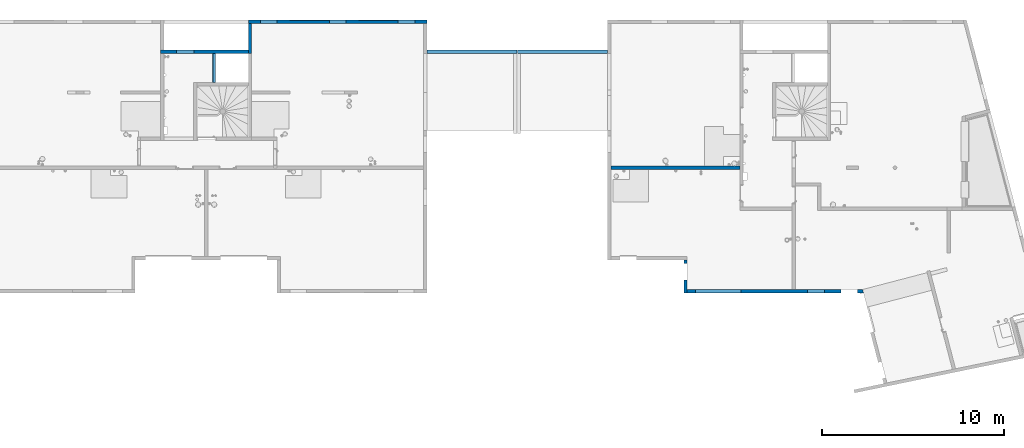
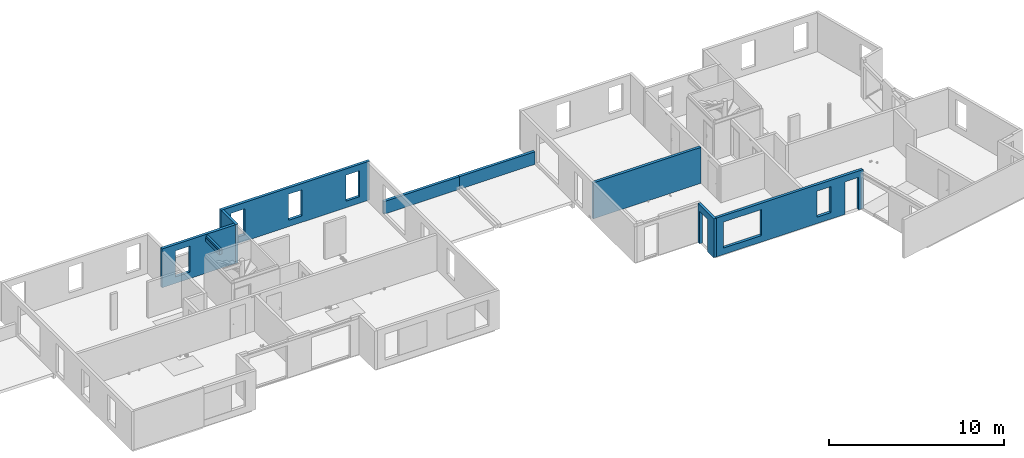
# One storey, part 11 of 24: 9 walls, 14 openings.
"""IFC2X3 building model written with IfcOpenShell, lengths in centimetres."""

from ifc_helpers import new_model, entity, si_unit, converted_unit, derived_unit, direction, frame, frame_2d, origin, place, context, subcontext, project, spatial, polyline, rectangle, outline, extrude, clip, bounded_halfspace, material, layer, layer_set, layer_usage, type_object, element, save


model = new_model("IFC2X3")

# Units and contexts
model_context = context("Model", 3, precision=0.001, world=origin(), true_north=direction((6.12303176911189e-17, 1.0)))
body_context = subcontext(model_context, "Body", "Model", "MODEL_VIEW")
ifc_project = project(units=[si_unit("LENGTHUNIT", "METRE", prefix="CENTI"), si_unit("AREAUNIT", "SQUARE_METRE"), si_unit("VOLUMEUNIT", "CUBIC_METRE"), converted_unit("PLANEANGLEUNIT", "DEGREE", entity("IfcRatioMeasure", 0.0174532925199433), si_unit("PLANEANGLEUNIT", "RADIAN"), dimensions=[0, 0, 0, 0, 0, 0, 0]), si_unit("MASSUNIT", "GRAM", prefix="KILO"), derived_unit("MASSDENSITYUNIT", [(si_unit("MASSUNIT", "GRAM", prefix="KILO"), 1), (si_unit("LENGTHUNIT", "METRE"), -3)]), si_unit("TIMEUNIT", "SECOND"), si_unit("FREQUENCYUNIT", "HERTZ"), si_unit("THERMODYNAMICTEMPERATUREUNIT", "DEGREE_CELSIUS"), derived_unit("THERMALTRANSMITTANCEUNIT", [(si_unit("MASSUNIT", "GRAM", prefix="KILO"), 1), (si_unit("THERMODYNAMICTEMPERATUREUNIT", "KELVIN"), -1), (si_unit("TIMEUNIT", "SECOND"), -3)]), derived_unit("VOLUMETRICFLOWRATEUNIT", [(si_unit("LENGTHUNIT", "METRE"), 3), (si_unit("TIMEUNIT", "SECOND"), -1)]), si_unit("ELECTRICCURRENTUNIT", "AMPERE"), si_unit("ELECTRICVOLTAGEUNIT", "VOLT"), si_unit("POWERUNIT", "WATT"), si_unit("FORCEUNIT", "NEWTON"), si_unit("ILLUMINANCEUNIT", "LUX"), si_unit("LUMINOUSFLUXUNIT", "LUMEN"), si_unit("LUMINOUSINTENSITYUNIT", "CANDELA"), derived_unit("USERDEFINED", [(si_unit("MASSUNIT", "GRAM", prefix="KILO"), -1), (si_unit("LENGTHUNIT", "METRE"), -2), (si_unit("TIMEUNIT", "SECOND"), 3), (si_unit("LUMINOUSFLUXUNIT", "LUMEN"), 1)]), derived_unit("LINEARVELOCITYUNIT", [(si_unit("LENGTHUNIT", "METRE"), 1), (si_unit("TIMEUNIT", "SECOND"), -1)]), si_unit("PRESSUREUNIT", "PASCAL"), derived_unit("USERDEFINED", [(si_unit("LENGTHUNIT", "METRE"), -2), (si_unit("MASSUNIT", "GRAM", prefix="KILO"), 1), (si_unit("TIMEUNIT", "SECOND"), -2)])], contexts=[model_context])

# Site, building, storey
site_placement = place(None, origin())
site = spatial("IfcSite", under=ifc_project, at=site_placement, Name="Default", CompositionType="ELEMENT")
building_placement = place(site_placement, origin())
building = spatial("IfcBuilding", under=site, at=building_placement, Name="CAGE 03", CompositionType="ELEMENT")
storey_placement = place(building_placement, frame((0.0, 0.0, 880.0)))
storey = spatial("IfcBuildingStorey", under=building, at=storey_placement, Name="R+3", CompositionType="ELEMENT", Elevation=880.0)

# Wall, openings
ifc_material = material(Name="Béton, C25/30")
ifc_layer = layer(ifc_material, 18.0)
ifc_layer_set = layer_set([ifc_layer], Name="Mur de base:Voile BA 18")
ifc_layer_usage_1 = layer_usage(ifc_layer_set, "AXIS2", "POSITIVE", -9.0)
wall_type = type_object("IfcWallType", Name="Mur de base:Voile BA 18", PredefinedType="STANDARD", material=ifc_layer_set)
wall_1_placement = place(storey_placement, frame((9712.36582014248, 3976.66066607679, 0.0), z_axis=(0.0, 0.0, 1.0), x_axis=(0.0, -1.0, 0.0)))
wall_1 = element("IfcWallStandardCase", 1, at=wall_1_placement, inside=storey, type_object=wall_type, material=ifc_layer_usage_1, Name="Mur de base:Voile BA 18", ObjectType="Mur de base:Voile BA 18", context=body_context, shape_type="SweptSolid", body=[
    extrude(rectangle(XDim=179.999999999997, YDim=17.9999999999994, at=frame_2d((89.9999999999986, -3.91686683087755e-13), x_axis=(-1.0, 0.0))), origin(), (0.0, 0.0, 1.0), 270.0),
])
opening_1_placement = place(wall_1_placement, origin())
element("IfcOpeningElement", 2, at=opening_1_placement, cuts=wall_1, Name="Mur de base:Voile BA 18", ObjectType="Opening", context=body_context, shape_type="SweptSolid", body=[
    extrude(rectangle(XDim=226.0, YDim=91.0000000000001, at=frame_2d((0.0, -1.13686837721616e-13), x_axis=(0.0, 1.0))), frame((64.4999999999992, -143.4, 383.0), z_axis=(0.0, 1.0, 0.0), x_axis=(-1.0, 0.0, 0.0)), (0.0, 0.0, 1.0), 304.8),
])
opening_2_placement = place(wall_1_placement, frame((3976.66066607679, -9712.36582014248, 0.0), z_axis=(0.0, 0.0, 1.0), x_axis=(0.0, 1.0, 0.0)))
element("IfcOpeningElement", 3, at=opening_2_placement, cuts=wall_1, Name="Mur de base:Voile BA 18", ObjectType="Opening", context=body_context, shape_type="SweptSolid", body=[
    extrude(rectangle(XDim=226.0, YDim=91.0000000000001, at=frame_2d((0.0, -1.13686837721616e-13), x_axis=(0.0, 1.0))), frame((9568.96582014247, 3912.16066607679, 113.0), z_axis=(1.0, 0.0, 0.0), x_axis=(0.0, 1.0, 0.0)), (0.0, 0.0, 1.0), 304.8),
])

ifc_layer_usage_2 = layer_usage(ifc_layer_set, "AXIS2", "POSITIVE", -9.0)
wall_2_placement = place(storey_placement, frame((9721.36582014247, 3805.66066607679, 0.0)))
wall_2 = element("IfcWallStandardCase", 4, at=wall_2_placement, inside=storey, type_object=wall_type, material=ifc_layer_usage_2, Name="Mur de base:Voile BA 18", ObjectType="Mur de base:Voile BA 18", context=body_context, shape_type="SweptSolid", body=[
    extrude(outline(polyline([(0.0, -9.0), (844.0, -9.0), (935.0, -9.0), (948.259414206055, -9.0), (950.32649087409, -9.0), (966.863104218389, -9.0), (965.180291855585, -2.55624871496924), (962.162329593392, 9.0), (935.0, 9.0), (844.0, 9.0), (0.0, 9.0), (0.0, -9.0)])), origin(), (0.0, 0.0, 1.0), 270.0),
])
opening_3_placement = place(wall_2_placement, origin())
element("IfcOpeningElement", 5, at=opening_3_placement, cuts=wall_2, Name="Mur de base:Voile BA 18", ObjectType="Opening", context=body_context, shape_type="SweptSolid", body=[
    extrude(rectangle(XDim=226.0, YDim=90.9999999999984, at=frame_2d((8.66862137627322e-13, -1.13686837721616e-13), x_axis=(0.0, 1.0))), frame((889.500000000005, -161.400000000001, 383.0), z_axis=(0.0, 1.0, 0.0), x_axis=(-1.0, 0.0, 0.0)), (0.0, 0.0, 1.0), 304.8),
])
opening_4_placement = place(wall_2_placement, frame((-9721.36582014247, -3805.66066607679, 0.0)))
element("IfcOpeningElement", 6, at=opening_4_placement, cuts=wall_2, Name="Mur de base:Voile BA 18", ObjectType="Opening", context=body_context, shape_type="SweptSolid", body=[
    extrude(rectangle(XDim=226.0, YDim=90.9999999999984, at=frame_2d((8.66862137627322e-13, -1.13686837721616e-13), x_axis=(0.0, 1.0))), frame((10610.8658201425, 3644.26066607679, 113.0), z_axis=(0.0, 1.0, 0.0), x_axis=(-1.0, 0.0, 0.0)), (0.0, 0.0, 1.0), 304.8),
])
opening_5_placement = place(wall_2_placement, frame((-9721.36582014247, -3805.66066607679, 0.0)))
element("IfcOpeningElement", 7, at=opening_5_placement, cuts=wall_2, Name="Mur de base:Voile BA 18", ObjectType="Opening", context=body_context, shape_type="SweptSolid", body=[
    extrude(rectangle(XDim=181.0, YDim=90.9999999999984, at=frame_2d((-8.66862137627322e-13, 0.0), x_axis=(0.0, 1.0))), frame((10427.8658201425, 3644.26066607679, 135.5), z_axis=(0.0, 1.0, 0.0), x_axis=(-1.0, 0.0, 0.0)), (0.0, 0.0, 1.0), 304.799999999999),
])
opening_6_placement = place(wall_2_placement, frame((-9721.36582014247, -3805.66066607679, 0.0)))
element("IfcOpeningElement", 8, at=opening_6_placement, cuts=wall_2, Name="Mur de base:Voile BA 18", ObjectType="Opening", context=body_context, shape_type="SweptSolid", body=[
    extrude(rectangle(XDim=181.0, YDim=251.0, at=frame_2d((8.66862137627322e-13, 0.0), x_axis=(0.0, 1.0))), frame((9891.86582014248, 3644.26066607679, 135.5), z_axis=(0.0, 1.0, 0.0), x_axis=(-1.0, 0.0, 0.0)), (0.0, 0.0, 1.0), 304.8),
])

# Wall
ifc_layer_usage_3 = layer_usage(ifc_layer_set, "AXIS2", "POSITIVE", -9.0)
wall_3_placement = place(storey_placement, frame((9284.36582014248, 5119.66066607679, 0.0), z_axis=(0.0, 0.0, 1.0), x_axis=(-1.0, 0.0, 0.0)))
element("IfcWallStandardCase", 9, at=wall_3_placement, inside=storey, type_object=wall_type, material=ifc_layer_usage_3, Name="Mur de base:Voile BA 18", ObjectType="Mur de base:Voile BA 18", context=body_context, shape_type="SweptSolid", body=[
    extrude(rectangle(XDim=495.000000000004, YDim=17.9999999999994, at=frame_2d((247.500000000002, -3.28626015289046e-14), x_axis=(-1.0, 0.0))), origin(), (0.0, 0.0, 1.0), 87.9999999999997),
])

# Wall, openings
ifc_layer_usage_4 = layer_usage(ifc_layer_set, "AXIS2", "POSITIVE", -9.0)
wall_4_placement = place(storey_placement, frame((8292.36582014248, 5284.6606660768, 0.0), z_axis=(0.0, 0.0, 1.0), x_axis=(-1.0, 0.0, 0.0)))
wall_4 = element("IfcWallStandardCase", 10, at=wall_4_placement, inside=storey, type_object=wall_type, material=ifc_layer_usage_4, Name="Mur de base:Voile BA 18", ObjectType="Mur de base:Voile BA 18", context=body_context, shape_type="SweptSolid", body=[
    extrude(rectangle(XDim=978.999999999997, YDim=17.9999999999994, at=frame_2d((489.499999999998, -2.1582735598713e-13), x_axis=(-1.0, 0.0))), origin(), (0.0, 0.0, 1.0), 270.0),
])
opening_7_placement = place(wall_4_placement, origin())
element("IfcOpeningElement", 11, at=opening_7_placement, cuts=wall_4, Name="Mur de base:Voile BA 18", ObjectType="Recess", context=body_context, shape_type="SweptSolid", body=[
    extrude(rectangle(XDim=181.0, YDim=218.0, at=frame_2d((4.33431068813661e-13, 1.06581410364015e-13), x_axis=(0.0, 1.0))), frame((644.0, -9.0, 135.5), z_axis=(0.0, 1.0, 0.0), x_axis=(1.0, 0.0, 0.0)), (0.0, 0.0, 1.0), 1.99999999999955),
])
opening_8_placement = place(wall_4_placement, origin())
element("IfcOpeningElement", 12, at=opening_8_placement, cuts=wall_4, Name="Mur de base:Voile BA 18", ObjectType="Recess", context=body_context, shape_type="SweptSolid", body=[
    extrude(rectangle(XDim=181.0, YDim=218.000000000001, at=frame_2d((-8.66862137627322e-13, -1.06581410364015e-13), x_axis=(0.0, 1.0))), frame((266.0, -9.0, 135.499999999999), z_axis=(0.0, 1.0, 0.0), x_axis=(1.0, 0.0, 0.0)), (0.0, 0.0, 1.0), 1.99999999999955),
])
opening_9_placement = place(wall_4_placement, frame((8292.36582014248, 5284.6606660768, 0.0), z_axis=(0.0, 0.0, 1.0), x_axis=(-1.0, 0.0, 0.0)))
element("IfcOpeningElement", 13, at=opening_9_placement, cuts=wall_4, Name="Mur de base:Voile BA 18", ObjectType="Opening", context=body_context, shape_type="SweptSolid", body=[
    extrude(rectangle(XDim=181.0, YDim=91.0000000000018, at=frame_2d((0.0, 0.0), x_axis=(0.0, 1.0))), frame((7802.86582014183, 5428.0606660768, 135.5), z_axis=(0.0, -1.0, 0.0), x_axis=(1.0, 0.0, 0.0)), (0.0, 0.0, 1.0), 304.8),
])
opening_10_placement = place(wall_4_placement, frame((8292.36582014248, 5284.6606660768, 0.0), z_axis=(0.0, 0.0, 1.0), x_axis=(-1.0, 0.0, 0.0)))
element("IfcOpeningElement", 14, at=opening_10_placement, cuts=wall_4, Name="Mur de base:Voile BA 18", ObjectType="Opening", context=body_context, shape_type="SweptSolid", body=[
    extrude(rectangle(XDim=181.0, YDim=90.9999999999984, at=frame_2d((8.66862137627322e-13, 0.0), x_axis=(0.0, 1.0))), frame((8180.86582014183, 5428.0606660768, 135.5), z_axis=(0.0, -1.0, 0.0), x_axis=(1.0, 0.0, 0.0)), (0.0, 0.0, 1.0), 304.8),
])
opening_11_placement = place(wall_4_placement, frame((8292.36582014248, 5284.6606660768, 0.0), z_axis=(0.0, 0.0, 1.0), x_axis=(-1.0, 0.0, 0.0)))
element("IfcOpeningElement", 15, at=opening_11_placement, cuts=wall_4, Name="Mur de base:Voile BA 18", ObjectType="Opening", context=body_context, shape_type="SweptSolid", body=[
    extrude(rectangle(XDim=181.0, YDim=91.0000000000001, at=frame_2d((0.0, 0.0), x_axis=(0.0, 1.0))), frame((7424.86582014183, 5428.0606660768, 135.5), z_axis=(0.0, -1.0, 0.0), x_axis=(1.0, 0.0, 0.0)), (0.0, 0.0, 1.0), 304.8),
])

# Wall
ifc_layer_usage_5 = layer_usage(ifc_layer_set, "AXIS2", "POSITIVE", -9.0)
wall_5_placement = place(storey_placement, frame((7322.36582014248, 5275.6606660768, 0.0), z_axis=(0.0, 0.0, 1.0), x_axis=(0.0, -1.0, 0.0)))
element("IfcWallStandardCase", 16, at=wall_5_placement, inside=storey, type_object=wall_type, material=ifc_layer_usage_5, Name="Mur de base:Voile BA 18", ObjectType="Mur de base:Voile BA 18", context=body_context, shape_type="SweptSolid", body=[
    extrude(rectangle(XDim=165.0, YDim=17.9999999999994, at=frame_2d((82.4999999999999, -2.1582735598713e-13), x_axis=(-1.0, 0.0))), origin(), (0.0, 0.0, 1.0), 270.0),
])

# Wall, openings
ifc_layer_usage_6 = layer_usage(ifc_layer_set, "AXIS2", "POSITIVE", -9.0)
wall_6_placement = place(storey_placement, frame((7313.36582014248, 5119.6606660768, 0.0), z_axis=(0.0, 0.0, 1.0), x_axis=(-1.0, 0.0, 0.0)))
wall_6 = element("IfcWallStandardCase", 17, at=wall_6_placement, inside=storey, type_object=wall_type, material=ifc_layer_usage_6, Name="Mur de base:Voile BA 18", ObjectType="Mur de base:Voile BA 18", context=body_context, shape_type="SweptSolid", body=[
    extrude(rectangle(XDim=482.0, YDim=17.9999999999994, at=frame_2d((241.0, -1.90958360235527e-13), x_axis=(-1.0, 0.0))), origin(), (0.0, 0.0, 1.0), 270.0),
])
opening_12_placement = place(wall_6_placement, origin())
element("IfcOpeningElement", 18, at=opening_12_placement, cuts=wall_6, Name="Mur de base:Voile BA 18", ObjectType="Opening", context=body_context, shape_type="SweptSolid", body=[
    extrude(rectangle(XDim=227.0, YDim=18.0000000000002, at=frame_2d((4.33431068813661e-13, 1.63424829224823e-13), x_axis=(0.0, 1.0))), frame((189.0, 9.0, 113.5), z_axis=(0.0, 1.0, 0.0), x_axis=(-1.0, 0.0, 0.0)), (0.0, 0.0, 1.0), 160.0),
])
opening_13_placement = place(wall_6_placement, frame((7313.36582014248, 5119.6606660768, 0.0), z_axis=(0.0, 0.0, 1.0), x_axis=(-1.0, 0.0, 0.0)))
element("IfcOpeningElement", 19, at=opening_13_placement, cuts=wall_6, Name="Mur de base:Voile BA 18", ObjectType="Opening", context=body_context, shape_type="SweptSolid", body=[
    extrude(rectangle(XDim=181.0, YDim=94.9999999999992, at=frame_2d((0.0, 0.0), x_axis=(0.0, 1.0))), frame((6966.86582014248, 5263.0606660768, 135.5), z_axis=(0.0, -1.0, 0.0), x_axis=(1.0, 0.0, 0.0)), (0.0, 0.0, 1.0), 304.8),
])

# Wall, opening
ifc_layer_usage_7 = layer_usage(ifc_layer_set, "AXIS2", "POSITIVE", -9.0)
wall_7_placement = place(storey_placement, frame((7124.36582014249, 5110.6606660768, 227.0), z_axis=(0.0, 0.0, 1.0), x_axis=(0.0, -1.0, 0.0)))
wall_7 = element("IfcWallStandardCase", 20, at=wall_7_placement, inside=storey, type_object=wall_type, material=ifc_layer_usage_7, Name="Mur de base:Voile BA 18", ObjectType="Mur de base:Voile BA 18", context=body_context, shape_type="Clipping", body=[
    clip(clip(extrude(rectangle(XDim=160.000000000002, YDim=17.9999999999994, at=frame_2d((80.0000000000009, 2.16715534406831e-13), x_axis=(-1.0, 0.0))), origin(), (0.0, 0.0, 1.0), 36.0), bounded_halfspace(frame((160.0, -6.0, 23.0), z_axis=(0.0, 0.0, -1.0), x_axis=(0.0, -1.0, 0.0)), True, frame((160.0, -6.0, 23.0), z_axis=(0.0, 0.0, -1.0), x_axis=(0.0, -1.0, 0.0)), polyline([(0.0, 0.0), (3.0, 0.0), (3.0, 160.0), (0.0, 160.0), (0.0, 0.0)]))), bounded_halfspace(frame((0.0, -6.0, 23.0), z_axis=(0.0, 1.0, 0.0), x_axis=(0.0, 0.0, 1.0)), True, frame((0.0, -6.0, 23.0), z_axis=(0.0, 1.0, 0.0), x_axis=(0.0, 0.0, 1.0)), polyline([(0.0, 0.0), (13.0, 0.0), (13.0, 160.0), (0.0, 160.0), (0.0, 0.0)]))),
])
opening_14_placement = place(wall_7_placement, frame((5110.6606660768, -7124.36582014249, -227.0), z_axis=(0.0, 0.0, 1.0), x_axis=(0.0, 1.0, 0.0)))
element("IfcOpeningElement", 21, at=opening_14_placement, cuts=wall_7, Name="Mur de base:Voile BA 18", ObjectType="Opening", context=body_context, shape_type="SweptSolid", body=[
    extrude(rectangle(XDim=227.0, YDim=160.0, at=frame_2d((0.0, 1.63424829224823e-13), x_axis=(0.0, 1.0))), frame((6980.96582014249, 5030.6606660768, 113.5), z_axis=(1.0, 0.0, 0.0), x_axis=(0.0, 1.0, 0.0)), (0.0, 0.0, 1.0), 304.8),
])

# Walls
ifc_layer_usage_8 = layer_usage(ifc_layer_set, "AXIS2", "NEGATIVE", 9.0)
wall_8_placement = place(storey_placement, frame((9302.36582014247, 4483.66066607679, 0.0)))
element("IfcWallStandardCase", 22, at=wall_8_placement, inside=storey, type_object=wall_type, material=ifc_layer_usage_8, Name="Mur de base:Voile BA 18", ObjectType="Mur de base:Voile BA 18", context=body_context, shape_type="SweptSolid", body=[
    extrude(rectangle(XDim=708.000000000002, YDim=17.9999999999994, at=frame_2d((354.000000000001, 2.1405099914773e-13), x_axis=(-1.0, 0.0))), origin(), (0.0, 0.0, 1.0), 250.0),
])
ifc_layer_usage_9 = layer_usage(ifc_layer_set, "AXIS2", "POSITIVE", -9.0)
wall_9_placement = place(storey_placement, frame((8787.36582014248, 5119.6606660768, 0.0), z_axis=(0.0, 0.0, 1.0), x_axis=(-1.0, 0.0, 0.0)))
element("IfcWallStandardCase", 23, at=wall_9_placement, inside=storey, type_object=wall_type, material=ifc_layer_usage_9, Name="Mur de base:Voile BA 18", ObjectType="Mur de base:Voile BA 18", context=body_context, shape_type="SweptSolid", body=[
    extrude(rectangle(XDim=494.999999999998, YDim=17.9999999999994, at=frame_2d((247.499999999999, -2.75335310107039e-14), x_axis=(-1.0, 0.0))), origin(), (0.0, 0.0, 1.0), 87.9999999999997),
])

save(model, "model.ifc")
